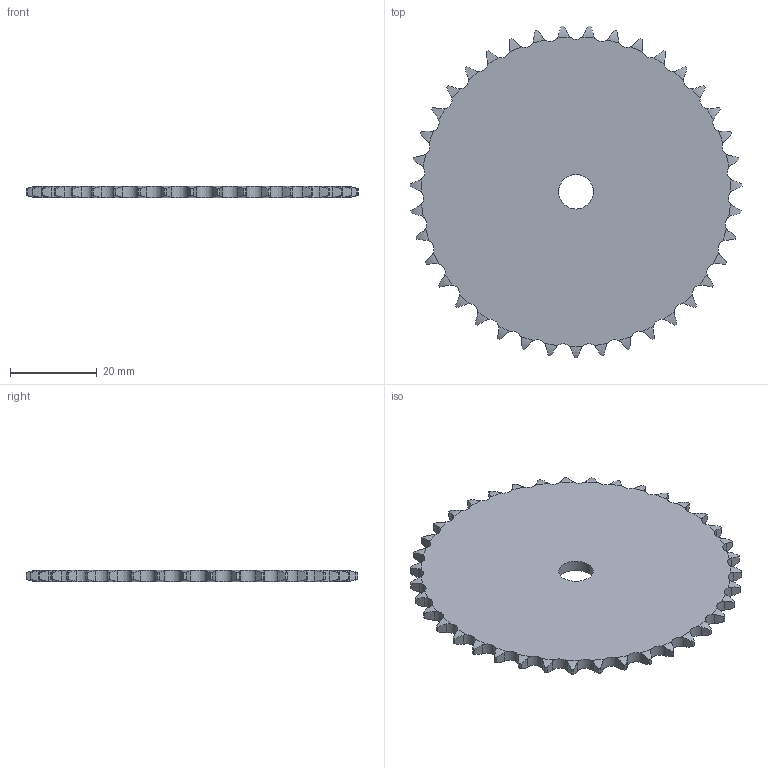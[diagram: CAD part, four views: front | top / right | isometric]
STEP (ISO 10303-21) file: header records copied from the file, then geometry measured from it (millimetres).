
FILE_DESCRIPTION((''),'2;1');
FILE_NAME('500-061-0039_PRT','2021-02-12T',('Brieden'),('Brieden'),'PRO/ENGINEER BY PARAMETRIC TECHNOLOGY CORPORATION, 2010160','PRO/ENGINEER BY PARAMETRIC TECHNOLOGY CORPORATION, 2010160','');
FILE_SCHEMA(('AUTOMOTIVE_DESIGN { 1 0 10303 214 1 1 1 1 }'));
Length unit declared in the file: millimetre
Products named in the file (1): 500-061-0039_PRT
Bounding box: 76.77 x 76.71 x 2.6 mm (x, y, z)
Volume: 10644.7 mm3; surface area: 9131.5 mm2
Topology: 1 solids, 1 shells, 238 faces, 708 edges, 472 vertices
Faces by surface type: cylinder 158, torus 78, plane 2
Entity records: 11065 total; most frequent: CARTESIAN_POINT 2862, ORIENTED_EDGE 1416, DIRECTION 1110, PRESENTATION_STYLE_ASSIGNMENT 709, STYLED_ITEM 709, CURVE_STYLE 708, EDGE_CURVE 708, AXIS2_PLACEMENT_3D 476
